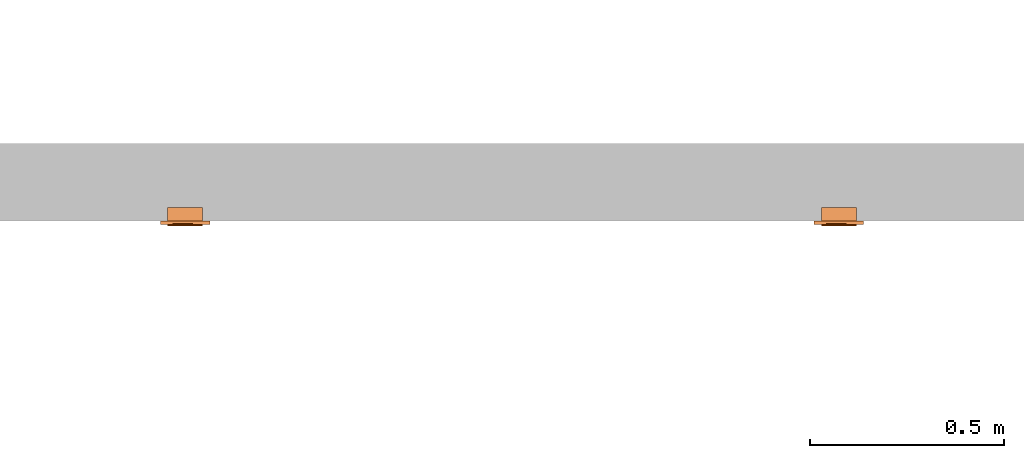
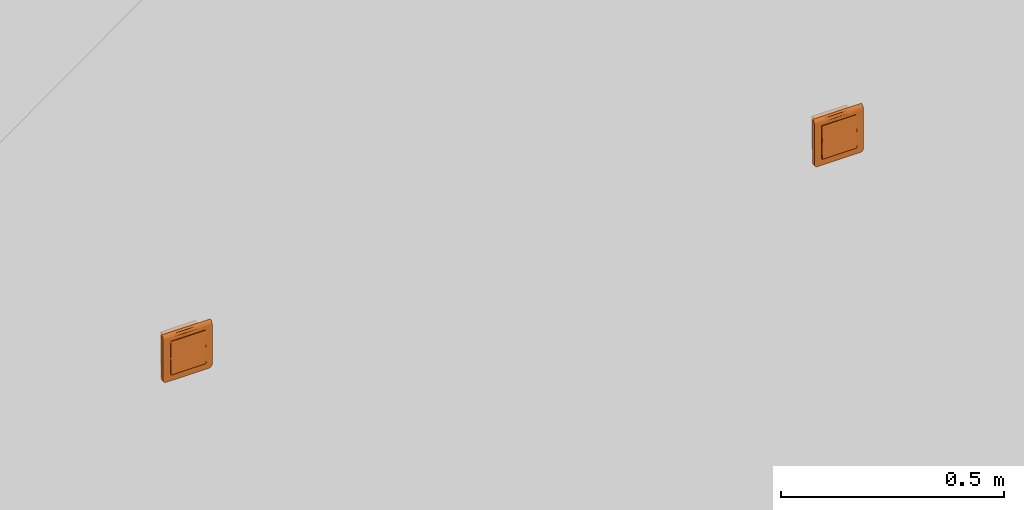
# One storey, part 181 of 197: 2 proxies.
"""IFC2X3 building model written with IfcOpenShell, lengths in metres."""

from ifc_helpers import new_model, entity, si_unit, converted_unit, direction, frame, origin, place, context, subcontext, project, spatial, faceted_brep, source, transform, mapped, material, material_list, type_object, type_shapes, element, save


model = new_model("IFC2X3")

# Units and contexts
model_context = context("Model", 3, precision=1e-05, world=origin(), true_north=direction((6.123031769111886e-17, 1.0)))
body_context = subcontext(model_context, "Body", "Model", "MODEL_VIEW")
ifc_project = project(units=[si_unit("LENGTHUNIT", "METRE"), converted_unit("PLANEANGLEUNIT", "DEGREE", entity("IfcPlaneAngleMeasure", 0.017453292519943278), si_unit("PLANEANGLEUNIT", "RADIAN"), dimensions=[0, 0, 0, 0, 0, 0, 0]), si_unit("AREAUNIT", "SQUARE_METRE")], contexts=[model_context])

# Site, building, storey
site_placement = place(None, origin())
site = spatial("IfcSite", under=ifc_project, at=site_placement, Name="Default", CompositionType="ELEMENT")
building_placement = place(site_placement, origin())
building = spatial("IfcBuilding", under=site, at=building_placement, CompositionType="ELEMENT")
storey_placement = place(building_placement, origin())
storey = spatial("IfcBuildingStorey", under=building, at=storey_placement, Name="Niveau 0", CompositionType="ELEMENT", Elevation=0.0)

# Proxies
ifc_material_1 = material(Name="<Unnamed>")
ifc_material_2 = material(Name="BETCE-DOIGT-BLANC")
ifc_material_3 = material(Name="BETCE-ENJOLIVEUR-BLANC")
ifc_material_list = material_list([ifc_material_1, ifc_material_2, ifc_material_3])
building_element_proxy_type_1 = type_object("IfcBuildingElementProxyType", Name="Tableau commande 2x4 modules encastré:1 SA + 7 VV", PredefinedType="NOTDEFINED", material=ifc_material_list)
shared_shape_1 = source(origin(), body_context, "Body", "Brep", [
    faceted_brep([(0.04499999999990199, 0.0, 0.0), (0.04499999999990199, 0.03499999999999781, 0.0), (0.022499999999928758, 0.03499999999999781, 0.0), (0.022499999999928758, 0.0, 0.0), (0.04499999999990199, 0.0, -0.045000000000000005), (0.022499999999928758, 0.0, -0.045000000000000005), (0.022499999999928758, 0.03499999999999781, -0.045000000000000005), (0.04499999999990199, 0.03499999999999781, -0.045000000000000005)], [[[0, 1, 2, 3]], [[4, 5, 6, 7]], [[1, 0, 4, 7]], [[2, 1, 7, 6]], [[3, 2, 6, 5]], [[0, 3, 5, 4]]]),
    faceted_brep([(0.04499999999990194, 0.0, 0.045000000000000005), (0.04499999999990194, 0.03499999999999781, 0.045000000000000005), (0.022499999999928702, 0.03499999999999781, 0.045000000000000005), (0.022499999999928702, 0.0, 0.045000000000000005), (0.04499999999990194, 0.0, 0.0), (0.022499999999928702, 0.0, 0.0), (0.022499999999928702, 0.03499999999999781, 0.0), (0.04499999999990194, 0.03499999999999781, 0.0)], [[[0, 1, 2, 3]], [[4, 5, 6, 7]], [[1, 0, 4, 7]], [[2, 1, 7, 6]], [[3, 2, 6, 5]], [[0, 3, 5, 4]]]),
    faceted_brep([(0.022499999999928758, 0.0, 0.0), (0.022499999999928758, 0.03499999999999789, 0.0), (0.0, 0.03499999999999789, 0.0), (0.0, 0.0, 0.0), (0.022499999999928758, 0.0, -0.045000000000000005), (0.0, 0.0, -0.045000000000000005), (0.0, 0.03499999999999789, -0.045000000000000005), (0.022499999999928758, 0.03499999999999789, -0.045000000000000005)], [[[0, 1, 2, 3]], [[4, 5, 6, 7]], [[1, 0, 4, 7]], [[2, 1, 7, 6]], [[3, 2, 6, 5]], [[0, 3, 5, 4]]]),
    faceted_brep([(0.0224999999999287, 0.0, 0.045000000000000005), (0.0224999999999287, 0.03499999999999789, 0.045000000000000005), (0.0, 0.03499999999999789, 0.045000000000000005), (0.0, 0.0, 0.045000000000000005), (0.0224999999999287, 0.0, 0.0), (0.0, 0.0, 0.0), (0.0, 0.03499999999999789, 0.0), (0.0224999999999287, 0.03499999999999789, 0.0)], [[[0, 1, 2, 3]], [[4, 5, 6, 7]], [[1, 0, 4, 7]], [[2, 1, 7, 6]], [[3, 2, 6, 5]], [[0, 3, 5, 4]]]),
    faceted_brep([(0.0, 0.0, 0.0), (0.0, 0.034999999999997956, 0.0), (-0.022500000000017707, 0.034999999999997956, 0.0), (-0.022500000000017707, 0.0, 0.0), (0.0, 0.0, -0.045000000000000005), (-0.022500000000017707, 0.0, -0.045000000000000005), (-0.022500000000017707, 0.034999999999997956, -0.045000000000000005), (0.0, 0.034999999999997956, -0.045000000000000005)], [[[0, 1, 2, 3]], [[4, 5, 6, 7]], [[1, 0, 4, 7]], [[2, 1, 7, 6]], [[3, 2, 6, 5]], [[0, 3, 5, 4]]]),
    faceted_brep([(0.0, 0.0, 0.045000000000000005), (0.0, 0.034999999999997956, 0.045000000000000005), (-0.022500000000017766, 0.034999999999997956, 0.045000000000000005), (-0.022500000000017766, 0.0, 0.045000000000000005), (0.0, 0.0, 0.0), (-0.022500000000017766, 0.0, 0.0), (-0.022500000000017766, 0.034999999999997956, 0.0), (0.0, 0.034999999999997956, 0.0)], [[[0, 1, 2, 3]], [[4, 5, 6, 7]], [[1, 0, 4, 7]], [[2, 1, 7, 6]], [[3, 2, 6, 5]], [[0, 3, 5, 4]]]),
    faceted_brep([(-0.02250000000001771, 0.0, 0.0), (-0.02250000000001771, 0.034999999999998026, 0.0), (-0.044999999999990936, 0.034999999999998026, 0.0), (-0.044999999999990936, 0.0, 0.0), (-0.02250000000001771, 0.0, -0.045000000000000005), (-0.044999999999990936, 0.0, -0.045000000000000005), (-0.044999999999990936, 0.034999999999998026, -0.045000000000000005), (-0.02250000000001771, 0.034999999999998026, -0.045000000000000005)], [[[0, 1, 2, 3]], [[4, 5, 6, 7]], [[1, 0, 4, 7]], [[2, 1, 7, 6]], [[3, 2, 6, 5]], [[0, 3, 5, 4]]]),
    faceted_brep([(-0.022500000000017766, 0.0, 0.045000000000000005), (-0.022500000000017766, 0.034999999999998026, 0.045000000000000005), (-0.044999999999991, 0.034999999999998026, 0.045000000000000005), (-0.044999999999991, 0.0, 0.045000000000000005), (-0.022500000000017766, 0.0, 0.0), (-0.044999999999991, 0.0, 0.0), (-0.044999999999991, 0.034999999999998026, 0.0), (-0.022500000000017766, 0.034999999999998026, 0.0)], [[[0, 1, 2, 3]], [[4, 5, 6, 7]], [[1, 0, 4, 7]], [[2, 1, 7, 6]], [[3, 2, 6, 5]], [[0, 3, 5, 4]]]),
    faceted_brep([(0.022499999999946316, 0.0, -0.045000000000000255), (0.022499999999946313, 0.0, 0.0), (0.04499999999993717, 0.0, 0.0), (0.04499999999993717, 0.0, -0.045000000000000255), (0.022499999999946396, -0.012750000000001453, -0.045000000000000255), (0.022499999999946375, -0.010500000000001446, 0.0), (0.044999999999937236, -0.010500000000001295, 0.0), (0.04499999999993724, -0.012750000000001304, -0.045000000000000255)], [[[0, 1, 2, 3]], [[1, 0, 4, 5]], [[2, 1, 5, 6]], [[3, 2, 6, 7]], [[0, 3, 7, 4]], [[5, 4, 7, 6]]]),
    faceted_brep([(0.0, 0.0, -0.04500000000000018), (0.0, 0.0, 0.0), (0.022499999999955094, 0.0, 0.0), (0.022499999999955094, 0.0, -0.04500000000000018), (0.0, -0.012750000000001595, -0.04500000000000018), (0.0, -0.010500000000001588, 0.0), (0.022499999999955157, -0.01050000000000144, 0.0), (0.022499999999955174, -0.012750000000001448, -0.04500000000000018)], [[[0, 1, 2, 3]], [[1, 0, 4, 5]], [[2, 1, 5, 6]], [[3, 2, 6, 7]], [[0, 3, 7, 4]], [[5, 4, 7, 6]]]),
    faceted_brep([(-0.022500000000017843, 0.0, -0.0450000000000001), (-0.022500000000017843, 0.0, 0.0), (0.0, 0.0, 0.0), (0.0, 0.0, -0.0450000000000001), (-0.02250000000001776, -0.012750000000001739, -0.0450000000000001), (-0.022500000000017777, -0.010500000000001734, 0.0), (0.0, -0.010500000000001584, 0.0), (0.0, -0.012750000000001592, -0.0450000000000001)], [[[0, 1, 2, 3]], [[1, 0, 4, 5]], [[2, 1, 5, 6]], [[3, 2, 6, 7]], [[0, 3, 7, 4]], [[5, 4, 7, 6]]]),
    faceted_brep([(-0.04499999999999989, 0.0, -0.045000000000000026), (-0.04499999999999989, 0.0, 0.0), (-0.022500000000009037, 0.0, 0.0), (-0.022500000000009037, 0.0, -0.045000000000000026), (-0.04499999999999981, -0.012750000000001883, -0.045000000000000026), (-0.04499999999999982, -0.010500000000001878, 0.0), (-0.022500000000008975, -0.01050000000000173, 0.0), (-0.022500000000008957, -0.012750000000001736, -0.045000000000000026)], [[[0, 1, 2, 3]], [[1, 0, 4, 5]], [[2, 1, 5, 6]], [[3, 2, 6, 7]], [[0, 3, 7, 4]], [[5, 4, 7, 6]]]),
    faceted_brep([(0.02249999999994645, -0.010500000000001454, 0.04499999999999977), (0.022499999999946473, -0.012750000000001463, 0.0), (0.04499999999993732, -0.012750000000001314, 0.0), (0.044999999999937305, -0.010500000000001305, 0.04499999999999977), (0.022499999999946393, 0.0, 0.0), (0.02249999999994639, 0.0, 0.04499999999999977), (0.04499999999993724, 0.0, 0.04499999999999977), (0.04499999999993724, 0.0, 0.0)], [[[0, 1, 2, 3]], [[4, 5, 6, 7]], [[5, 4, 1, 0]], [[6, 5, 0, 3]], [[7, 6, 3, 2]], [[4, 7, 2, 1]]]),
    faceted_brep([(0.0, -0.010500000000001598, 0.044999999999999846), (0.0, -0.012750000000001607, 0.0), (0.02249999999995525, -0.012750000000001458, 0.0), (0.022499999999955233, -0.010500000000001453, 0.044999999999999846), (0.0, 0.0, 0.0), (0.0, 0.0, 0.044999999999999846), (0.02249999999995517, 0.0, 0.04499999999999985), (0.02249999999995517, 0.0, 0.0)], [[[0, 1, 2, 3]], [[4, 5, 6, 7]], [[5, 4, 1, 0]], [[6, 5, 0, 3]], [[7, 6, 3, 2]], [[4, 7, 2, 1]]]),
    faceted_brep([(-0.0225000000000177, -0.010500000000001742, 0.04499999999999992), (-0.022500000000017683, -0.01275000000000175, 0.0), (0.0, -0.012750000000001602, 0.0), (0.0, -0.010500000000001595, 0.04499999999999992), (-0.022500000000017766, 0.0, 0.0), (-0.022500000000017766, 0.0, 0.04499999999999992), (0.0, 0.0, 0.04499999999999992), (0.0, 0.0, 0.0)], [[[0, 1, 2, 3]], [[4, 5, 6, 7]], [[5, 4, 1, 0]], [[6, 5, 0, 3]], [[7, 6, 3, 2]], [[4, 7, 2, 1]]]),
    faceted_brep([(-0.044999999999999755, -0.010500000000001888, 0.045), (-0.044999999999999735, -0.012750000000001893, 0.0), (-0.02250000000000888, -0.012750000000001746, 0.0), (-0.0225000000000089, -0.010500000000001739, 0.045), (-0.04499999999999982, 0.0, 0.0), (-0.04499999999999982, 0.0, 0.045), (-0.022500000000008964, 0.0, 0.045000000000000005), (-0.022500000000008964, 0.0, 0.0)], [[[0, 1, 2, 3]], [[4, 5, 6, 7]], [[5, 4, 1, 0]], [[6, 5, 0, 3]], [[7, 6, 3, 2]], [[4, 7, 2, 1]]]),
    faceted_brep([(0.06350000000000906, -0.009000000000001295, -0.055500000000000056), (0.06350000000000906, -0.009000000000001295, 0.05450000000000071), (0.045000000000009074, -0.00900000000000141, -0.045000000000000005), (0.055500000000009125, -0.009000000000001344, -0.06350000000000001), (0.057570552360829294, -0.009000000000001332, -0.06322740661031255), (0.06322740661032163, -0.009000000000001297, -0.05757055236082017), (0.04500000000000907, -0.00900000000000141, 0.045), (-0.044999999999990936, -0.00900000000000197, 0.045000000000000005), (-0.01112442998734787, -0.009000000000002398, 0.054500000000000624), (-0.06349999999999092, -0.009000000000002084, 0.05450000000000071), (-0.044999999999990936, -0.00900000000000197, -0.045000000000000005), (-0.06349999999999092, -0.009000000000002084, -0.05550000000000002), (-0.055499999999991, -0.009000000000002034, -0.06350000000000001), (-0.0575705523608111, -0.009000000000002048, -0.06322740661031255), (-0.06322740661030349, -0.009000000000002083, -0.05757055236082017), (-0.05949999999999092, -0.00900000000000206, -0.062428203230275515), (-0.062428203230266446, -0.009000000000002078, -0.05950000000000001), (-0.06115685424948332, -0.00900000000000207, -0.06115685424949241), (0.059500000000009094, -0.00900000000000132, -0.062428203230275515), (0.062428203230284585, -0.009000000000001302, -0.05949999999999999), (0.06115685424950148, -0.009000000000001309, -0.061156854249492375), (-0.063499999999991, 0.0, -0.05550000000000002), (-0.063499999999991, 0.0, 0.06350000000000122), (-0.044999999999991, 0.0, 0.045000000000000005), (-0.044999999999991, 0.0, -0.045000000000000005), (-0.055499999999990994, 0.0, -0.06350000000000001), (-0.06322740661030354, 0.0, -0.05757055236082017), (0.045000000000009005, 0.0, 0.045000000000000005), (0.011124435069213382, 0.0, 0.06350000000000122), (0.06350000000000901, 0.0, 0.0635), (0.06350000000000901, 0.0, -0.05550000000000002), (0.045000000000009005, 0.0, -0.045000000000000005), (0.05550000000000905, 0.0, -0.06350000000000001), (0.06322740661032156, 0.0, -0.05757055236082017), (0.057570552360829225, 0.0, -0.06322740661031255), (0.06242820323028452, 0.0, -0.05949999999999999), (0.05950000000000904, 0.0, -0.062428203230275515), (0.06115685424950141, 0.0, -0.061156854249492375), (-0.05757055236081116, 0.0, -0.06322740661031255), (-0.0624282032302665, 0.0, -0.05950000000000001), (-0.059499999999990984, 0.0, -0.062428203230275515), (-0.06115685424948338, 0.0, -0.06115685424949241), (0.06350000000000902, -0.00232937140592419, 0.06319333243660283), (0.06350000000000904, -0.004500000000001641, 0.06229422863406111), (0.06350000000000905, -0.006363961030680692, 0.06086396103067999), (0.06350000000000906, -0.007794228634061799, 0.05900000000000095), (0.06350000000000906, -0.008693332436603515, 0.056829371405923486), (-0.06349999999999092, -0.00869333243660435, 0.0568293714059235), (-0.06349999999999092, -0.007794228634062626, 0.059000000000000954), (-0.06349999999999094, -0.006363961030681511, 0.06086396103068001), (-0.06349999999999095, -0.004500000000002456, 0.062294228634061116), (-0.06349999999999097, -0.002329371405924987, 0.06319333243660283), (-0.010857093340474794, -0.006120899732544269, 0.06109807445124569)], [[[0, 1, 2]], [[3, 0, 2]], [[0, 3, 4]], [[5, 0, 4]], [[2, 1, 6]], [[1, 7, 6]], [[7, 1, 8]], [[7, 8, 9]], [[10, 7, 9]], [[11, 10, 9]], [[12, 10, 11]], [[12, 11, 13]], [[13, 11, 14]], [[15, 13, 14]], [[16, 15, 14]], [[15, 16, 17]], [[10, 12, 3]], [[2, 10, 3]], [[5, 4, 18]], [[5, 18, 19]], [[20, 19, 18]], [[21, 22, 23]], [[24, 21, 23]], [[25, 21, 24]], [[26, 21, 25]], [[22, 27, 23]], [[27, 22, 28]], [[27, 28, 29]], [[30, 27, 29]], [[31, 27, 30]], [[32, 31, 30]], [[32, 30, 33]], [[32, 33, 34]], [[33, 35, 34]], [[35, 36, 34]], [[36, 35, 37]], [[31, 32, 25]], [[26, 25, 38]], [[24, 31, 25]], [[39, 26, 38]], [[39, 38, 40]], [[41, 39, 40]], [[1, 0, 30, 29, 42, 43, 44, 45, 46]], [[33, 30, 0, 5]], [[35, 33, 5, 19]], [[37, 35, 19, 20]], [[36, 37, 20, 18]], [[34, 36, 18, 4]], [[32, 34, 4, 3]], [[25, 32, 3, 12]], [[38, 25, 12, 13]], [[40, 38, 13, 15]], [[41, 40, 15, 17]], [[39, 41, 17, 16]], [[26, 39, 16, 14]], [[21, 26, 14, 11]], [[22, 21, 11, 9, 47, 48, 49, 50, 51]], [[24, 23, 7, 10]], [[31, 24, 10, 2]], [[27, 31, 2, 6]], [[23, 27, 6, 7]], [[52, 8, 45]], [[47, 9, 8]], [[1, 46, 8]], [[44, 52, 45]], [[46, 45, 8]], [[50, 52, 51]], [[48, 47, 8]], [[28, 52, 43]], [[48, 52, 49]], [[42, 29, 28]], [[28, 22, 51]], [[48, 8, 52]], [[28, 43, 42]], [[44, 43, 52]], [[52, 50, 49]], [[52, 28, 51]]]),
])
type_shapes(building_element_proxy_type_1, [shared_shape_1])
proxy_1_placement = place(storey_placement, frame((-345.7277796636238, 122.781355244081, 1.1)))
element("IfcBuildingElementProxy", 1, at=proxy_1_placement, inside=storey, type_object=building_element_proxy_type_1, material=ifc_material_list, Name="Tableau commande 2x4 modules encastré:1 SA + 7 VV", ObjectType="Tableau commande 2x4 modules encastré:1 SA + 7 VV", context=body_context, shape_type="MappedRepresentation", body=[
    mapped(shared_shape_1, transform((0.0, 0.0, 0.0), scale=1.0)),
])
building_element_proxy_type_2 = type_object("IfcBuildingElementProxyType", Name="Tableau commande 2x4 modules encastré:2 SA + 6 VV", PredefinedType="NOTDEFINED", material=ifc_material_list)
shared_shape_2 = source(origin(), body_context, "Body", "Brep", [
    faceted_brep([(0.04499999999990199, 0.0, 0.0), (0.04499999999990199, 0.03499999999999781, 0.0), (0.022499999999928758, 0.03499999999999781, 0.0), (0.022499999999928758, 0.0, 0.0), (0.04499999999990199, 0.0, -0.045000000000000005), (0.022499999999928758, 0.0, -0.045000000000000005), (0.022499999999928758, 0.03499999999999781, -0.045000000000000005), (0.04499999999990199, 0.03499999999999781, -0.045000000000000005)], [[[0, 1, 2, 3]], [[4, 5, 6, 7]], [[1, 0, 4, 7]], [[2, 1, 7, 6]], [[3, 2, 6, 5]], [[0, 3, 5, 4]]]),
    faceted_brep([(0.04499999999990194, 0.0, 0.045000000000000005), (0.04499999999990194, 0.03499999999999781, 0.045000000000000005), (0.022499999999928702, 0.03499999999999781, 0.045000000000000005), (0.022499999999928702, 0.0, 0.045000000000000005), (0.04499999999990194, 0.0, 0.0), (0.022499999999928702, 0.0, 0.0), (0.022499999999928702, 0.03499999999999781, 0.0), (0.04499999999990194, 0.03499999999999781, 0.0)], [[[0, 1, 2, 3]], [[4, 5, 6, 7]], [[1, 0, 4, 7]], [[2, 1, 7, 6]], [[3, 2, 6, 5]], [[0, 3, 5, 4]]]),
    faceted_brep([(0.022499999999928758, 0.0, 0.0), (0.022499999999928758, 0.03499999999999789, 0.0), (0.0, 0.03499999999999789, 0.0), (0.0, 0.0, 0.0), (0.022499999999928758, 0.0, -0.045000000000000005), (0.0, 0.0, -0.045000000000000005), (0.0, 0.03499999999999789, -0.045000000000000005), (0.022499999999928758, 0.03499999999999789, -0.045000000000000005)], [[[0, 1, 2, 3]], [[4, 5, 6, 7]], [[1, 0, 4, 7]], [[2, 1, 7, 6]], [[3, 2, 6, 5]], [[0, 3, 5, 4]]]),
    faceted_brep([(0.0224999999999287, 0.0, 0.045000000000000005), (0.0224999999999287, 0.03499999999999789, 0.045000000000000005), (0.0, 0.03499999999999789, 0.045000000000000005), (0.0, 0.0, 0.045000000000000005), (0.0224999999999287, 0.0, 0.0), (0.0, 0.0, 0.0), (0.0, 0.03499999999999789, 0.0), (0.0224999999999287, 0.03499999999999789, 0.0)], [[[0, 1, 2, 3]], [[4, 5, 6, 7]], [[1, 0, 4, 7]], [[2, 1, 7, 6]], [[3, 2, 6, 5]], [[0, 3, 5, 4]]]),
    faceted_brep([(0.0, 0.0, 0.0), (0.0, 0.034999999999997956, 0.0), (-0.022500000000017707, 0.034999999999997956, 0.0), (-0.022500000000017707, 0.0, 0.0), (0.0, 0.0, -0.045000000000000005), (-0.022500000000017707, 0.0, -0.045000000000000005), (-0.022500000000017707, 0.034999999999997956, -0.045000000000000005), (0.0, 0.034999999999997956, -0.045000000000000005)], [[[0, 1, 2, 3]], [[4, 5, 6, 7]], [[1, 0, 4, 7]], [[2, 1, 7, 6]], [[3, 2, 6, 5]], [[0, 3, 5, 4]]]),
    faceted_brep([(0.0, 0.0, 0.045000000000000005), (0.0, 0.034999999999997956, 0.045000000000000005), (-0.022500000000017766, 0.034999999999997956, 0.045000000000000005), (-0.022500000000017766, 0.0, 0.045000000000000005), (0.0, 0.0, 0.0), (-0.022500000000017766, 0.0, 0.0), (-0.022500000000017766, 0.034999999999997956, 0.0), (0.0, 0.034999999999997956, 0.0)], [[[0, 1, 2, 3]], [[4, 5, 6, 7]], [[1, 0, 4, 7]], [[2, 1, 7, 6]], [[3, 2, 6, 5]], [[0, 3, 5, 4]]]),
    faceted_brep([(-0.02250000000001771, 0.0, 0.0), (-0.02250000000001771, 0.034999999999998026, 0.0), (-0.044999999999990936, 0.034999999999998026, 0.0), (-0.044999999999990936, 0.0, 0.0), (-0.02250000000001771, 0.0, -0.045000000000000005), (-0.044999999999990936, 0.0, -0.045000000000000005), (-0.044999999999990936, 0.034999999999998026, -0.045000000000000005), (-0.02250000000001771, 0.034999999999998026, -0.045000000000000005)], [[[0, 1, 2, 3]], [[4, 5, 6, 7]], [[1, 0, 4, 7]], [[2, 1, 7, 6]], [[3, 2, 6, 5]], [[0, 3, 5, 4]]]),
    faceted_brep([(-0.022500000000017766, 0.0, 0.045000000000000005), (-0.022500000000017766, 0.034999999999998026, 0.045000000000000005), (-0.044999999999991, 0.034999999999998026, 0.045000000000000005), (-0.044999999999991, 0.0, 0.045000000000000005), (-0.022500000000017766, 0.0, 0.0), (-0.044999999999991, 0.0, 0.0), (-0.044999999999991, 0.034999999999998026, 0.0), (-0.022500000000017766, 0.034999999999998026, 0.0)], [[[0, 1, 2, 3]], [[4, 5, 6, 7]], [[1, 0, 4, 7]], [[2, 1, 7, 6]], [[3, 2, 6, 5]], [[0, 3, 5, 4]]]),
    faceted_brep([(0.022499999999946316, 0.0, -0.045000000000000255), (0.022499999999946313, 0.0, 0.0), (0.04499999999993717, 0.0, 0.0), (0.04499999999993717, 0.0, -0.045000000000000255), (0.022499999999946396, -0.012750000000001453, -0.045000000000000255), (0.022499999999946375, -0.010500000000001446, 0.0), (0.044999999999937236, -0.010500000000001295, 0.0), (0.04499999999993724, -0.012750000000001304, -0.045000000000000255)], [[[0, 1, 2, 3]], [[1, 0, 4, 5]], [[2, 1, 5, 6]], [[3, 2, 6, 7]], [[0, 3, 7, 4]], [[5, 4, 7, 6]]]),
    faceted_brep([(0.0, 0.0, -0.04500000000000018), (0.0, 0.0, 0.0), (0.022499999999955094, 0.0, 0.0), (0.022499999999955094, 0.0, -0.04500000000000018), (0.0, -0.012750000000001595, -0.04500000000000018), (0.0, -0.010500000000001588, 0.0), (0.022499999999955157, -0.01050000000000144, 0.0), (0.022499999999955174, -0.012750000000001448, -0.04500000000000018)], [[[0, 1, 2, 3]], [[1, 0, 4, 5]], [[2, 1, 5, 6]], [[3, 2, 6, 7]], [[0, 3, 7, 4]], [[5, 4, 7, 6]]]),
    faceted_brep([(-0.022500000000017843, 0.0, -0.0450000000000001), (-0.022500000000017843, 0.0, 0.0), (0.0, 0.0, 0.0), (0.0, 0.0, -0.0450000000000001), (-0.02250000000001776, -0.012750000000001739, -0.0450000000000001), (-0.022500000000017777, -0.010500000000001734, 0.0), (0.0, -0.010500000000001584, 0.0), (0.0, -0.012750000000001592, -0.0450000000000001)], [[[0, 1, 2, 3]], [[1, 0, 4, 5]], [[2, 1, 5, 6]], [[3, 2, 6, 7]], [[0, 3, 7, 4]], [[5, 4, 7, 6]]]),
    faceted_brep([(-0.04499999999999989, 0.0, -0.045000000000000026), (-0.04499999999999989, 0.0, 0.0), (-0.022500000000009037, 0.0, 0.0), (-0.022500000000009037, 0.0, -0.045000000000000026), (-0.04499999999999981, -0.012750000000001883, -0.045000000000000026), (-0.04499999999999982, -0.010500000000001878, 0.0), (-0.022500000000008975, -0.01050000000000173, 0.0), (-0.022500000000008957, -0.012750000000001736, -0.045000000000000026)], [[[0, 1, 2, 3]], [[1, 0, 4, 5]], [[2, 1, 5, 6]], [[3, 2, 6, 7]], [[0, 3, 7, 4]], [[5, 4, 7, 6]]]),
    faceted_brep([(0.02249999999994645, -0.010500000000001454, 0.04499999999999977), (0.022499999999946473, -0.012750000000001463, 0.0), (0.04499999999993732, -0.012750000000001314, 0.0), (0.044999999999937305, -0.010500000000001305, 0.04499999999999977), (0.022499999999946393, 0.0, 0.0), (0.02249999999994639, 0.0, 0.04499999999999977), (0.04499999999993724, 0.0, 0.04499999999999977), (0.04499999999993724, 0.0, 0.0)], [[[0, 1, 2, 3]], [[4, 5, 6, 7]], [[5, 4, 1, 0]], [[6, 5, 0, 3]], [[7, 6, 3, 2]], [[4, 7, 2, 1]]]),
    faceted_brep([(0.0, -0.010500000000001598, 0.044999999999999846), (0.0, -0.012750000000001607, 0.0), (0.02249999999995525, -0.012750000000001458, 0.0), (0.022499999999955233, -0.010500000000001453, 0.044999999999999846), (0.0, 0.0, 0.0), (0.0, 0.0, 0.044999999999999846), (0.02249999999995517, 0.0, 0.04499999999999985), (0.02249999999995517, 0.0, 0.0)], [[[0, 1, 2, 3]], [[4, 5, 6, 7]], [[5, 4, 1, 0]], [[6, 5, 0, 3]], [[7, 6, 3, 2]], [[4, 7, 2, 1]]]),
    faceted_brep([(-0.0225000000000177, -0.010500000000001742, 0.04499999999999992), (-0.022500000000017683, -0.01275000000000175, 0.0), (0.0, -0.012750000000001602, 0.0), (0.0, -0.010500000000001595, 0.04499999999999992), (-0.022500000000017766, 0.0, 0.0), (-0.022500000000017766, 0.0, 0.04499999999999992), (0.0, 0.0, 0.04499999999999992), (0.0, 0.0, 0.0)], [[[0, 1, 2, 3]], [[4, 5, 6, 7]], [[5, 4, 1, 0]], [[6, 5, 0, 3]], [[7, 6, 3, 2]], [[4, 7, 2, 1]]]),
    faceted_brep([(-0.044999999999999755, -0.010500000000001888, 0.045), (-0.044999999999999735, -0.012750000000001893, 0.0), (-0.02250000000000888, -0.012750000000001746, 0.0), (-0.0225000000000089, -0.010500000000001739, 0.045), (-0.04499999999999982, 0.0, 0.0), (-0.04499999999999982, 0.0, 0.045), (-0.022500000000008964, 0.0, 0.045000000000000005), (-0.022500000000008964, 0.0, 0.0)], [[[0, 1, 2, 3]], [[4, 5, 6, 7]], [[5, 4, 1, 0]], [[6, 5, 0, 3]], [[7, 6, 3, 2]], [[4, 7, 2, 1]]]),
    faceted_brep([(0.06350000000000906, -0.009000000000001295, -0.055500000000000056), (0.06350000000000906, -0.009000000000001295, 0.05450000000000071), (0.045000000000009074, -0.00900000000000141, -0.045000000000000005), (0.055500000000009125, -0.009000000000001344, -0.06350000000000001), (0.057570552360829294, -0.009000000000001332, -0.06322740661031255), (0.06322740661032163, -0.009000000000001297, -0.05757055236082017), (0.04500000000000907, -0.00900000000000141, 0.045), (-0.044999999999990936, -0.00900000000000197, 0.045000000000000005), (-0.01112442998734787, -0.009000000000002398, 0.054500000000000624), (-0.06349999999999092, -0.009000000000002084, 0.05450000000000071), (-0.044999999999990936, -0.00900000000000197, -0.045000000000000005), (-0.06349999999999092, -0.009000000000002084, -0.05550000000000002), (-0.055499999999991, -0.009000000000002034, -0.06350000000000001), (-0.0575705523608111, -0.009000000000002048, -0.06322740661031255), (-0.06322740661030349, -0.009000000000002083, -0.05757055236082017), (-0.05949999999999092, -0.00900000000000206, -0.062428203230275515), (-0.062428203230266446, -0.009000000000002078, -0.05950000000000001), (-0.06115685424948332, -0.00900000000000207, -0.06115685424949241), (0.059500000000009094, -0.00900000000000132, -0.062428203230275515), (0.062428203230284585, -0.009000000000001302, -0.05949999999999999), (0.06115685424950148, -0.009000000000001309, -0.061156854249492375), (-0.063499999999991, 0.0, -0.05550000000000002), (-0.063499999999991, 0.0, 0.06350000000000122), (-0.044999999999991, 0.0, 0.045000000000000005), (-0.044999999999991, 0.0, -0.045000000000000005), (-0.055499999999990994, 0.0, -0.06350000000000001), (-0.06322740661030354, 0.0, -0.05757055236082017), (0.045000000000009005, 0.0, 0.045000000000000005), (0.011124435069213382, 0.0, 0.06350000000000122), (0.06350000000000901, 0.0, 0.0635), (0.06350000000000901, 0.0, -0.05550000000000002), (0.045000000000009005, 0.0, -0.045000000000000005), (0.05550000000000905, 0.0, -0.06350000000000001), (0.06322740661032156, 0.0, -0.05757055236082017), (0.057570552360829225, 0.0, -0.06322740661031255), (0.06242820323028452, 0.0, -0.05949999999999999), (0.05950000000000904, 0.0, -0.062428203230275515), (0.06115685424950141, 0.0, -0.061156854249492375), (-0.05757055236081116, 0.0, -0.06322740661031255), (-0.0624282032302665, 0.0, -0.05950000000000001), (-0.059499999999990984, 0.0, -0.062428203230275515), (-0.06115685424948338, 0.0, -0.06115685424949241), (0.06350000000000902, -0.00232937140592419, 0.06319333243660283), (0.06350000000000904, -0.004500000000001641, 0.06229422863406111), (0.06350000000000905, -0.006363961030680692, 0.06086396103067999), (0.06350000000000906, -0.007794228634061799, 0.05900000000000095), (0.06350000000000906, -0.008693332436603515, 0.056829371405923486), (-0.06349999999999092, -0.00869333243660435, 0.0568293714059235), (-0.06349999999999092, -0.007794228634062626, 0.059000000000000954), (-0.06349999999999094, -0.006363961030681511, 0.06086396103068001), (-0.06349999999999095, -0.004500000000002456, 0.062294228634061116), (-0.06349999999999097, -0.002329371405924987, 0.06319333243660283), (-0.010857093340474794, -0.006120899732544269, 0.06109807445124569)], [[[0, 1, 2]], [[3, 0, 2]], [[0, 3, 4]], [[5, 0, 4]], [[2, 1, 6]], [[1, 7, 6]], [[7, 1, 8]], [[7, 8, 9]], [[10, 7, 9]], [[11, 10, 9]], [[12, 10, 11]], [[12, 11, 13]], [[13, 11, 14]], [[15, 13, 14]], [[16, 15, 14]], [[15, 16, 17]], [[10, 12, 3]], [[2, 10, 3]], [[5, 4, 18]], [[5, 18, 19]], [[20, 19, 18]], [[21, 22, 23]], [[24, 21, 23]], [[25, 21, 24]], [[26, 21, 25]], [[22, 27, 23]], [[27, 22, 28]], [[27, 28, 29]], [[30, 27, 29]], [[31, 27, 30]], [[32, 31, 30]], [[32, 30, 33]], [[32, 33, 34]], [[33, 35, 34]], [[35, 36, 34]], [[36, 35, 37]], [[31, 32, 25]], [[26, 25, 38]], [[24, 31, 25]], [[39, 26, 38]], [[39, 38, 40]], [[41, 39, 40]], [[1, 0, 30, 29, 42, 43, 44, 45, 46]], [[33, 30, 0, 5]], [[35, 33, 5, 19]], [[37, 35, 19, 20]], [[36, 37, 20, 18]], [[34, 36, 18, 4]], [[32, 34, 4, 3]], [[25, 32, 3, 12]], [[38, 25, 12, 13]], [[40, 38, 13, 15]], [[41, 40, 15, 17]], [[39, 41, 17, 16]], [[26, 39, 16, 14]], [[21, 26, 14, 11]], [[22, 21, 11, 9, 47, 48, 49, 50, 51]], [[24, 23, 7, 10]], [[31, 24, 10, 2]], [[27, 31, 2, 6]], [[23, 27, 6, 7]], [[52, 8, 45]], [[47, 9, 8]], [[1, 46, 8]], [[44, 52, 45]], [[46, 45, 8]], [[50, 52, 51]], [[48, 47, 8]], [[28, 52, 43]], [[48, 52, 49]], [[42, 29, 28]], [[28, 22, 51]], [[48, 8, 52]], [[28, 43, 42]], [[44, 43, 52]], [[52, 50, 49]], [[52, 28, 51]]]),
])
type_shapes(building_element_proxy_type_2, [shared_shape_2])
proxy_2_placement = place(storey_placement, frame((-344.04077966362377, 122.781355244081, 1.1)))
element("IfcBuildingElementProxy", 2, at=proxy_2_placement, inside=storey, type_object=building_element_proxy_type_2, material=ifc_material_list, Name="Tableau commande 2x4 modules encastré:2 SA + 6 VV", ObjectType="Tableau commande 2x4 modules encastré:2 SA + 6 VV", context=body_context, shape_type="MappedRepresentation", body=[
    mapped(shared_shape_2, transform((0.0, 0.0, 0.0), scale=1.0)),
])

save(model, "model.ifc")
